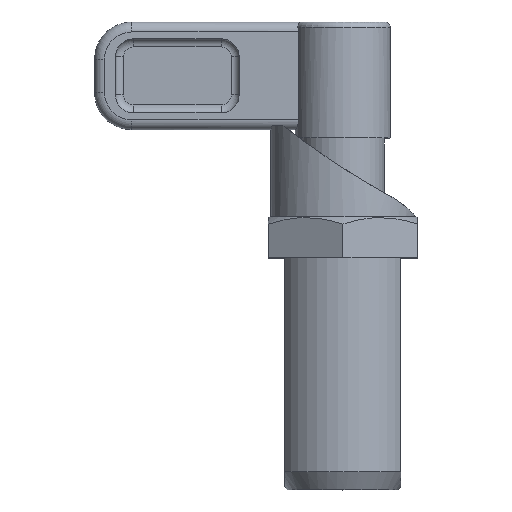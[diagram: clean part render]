
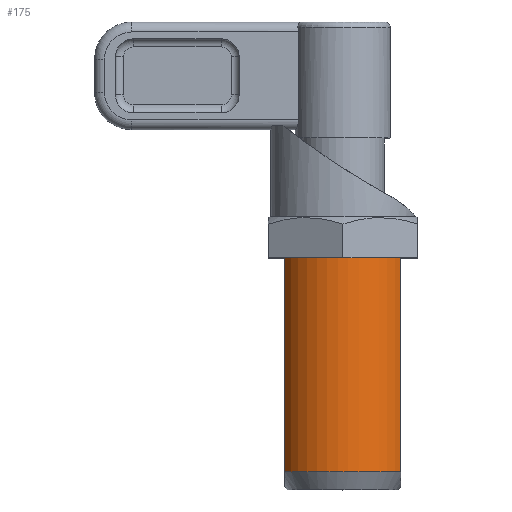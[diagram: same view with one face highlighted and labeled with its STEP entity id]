
A CAD part, top view. The second image highlights one B-rep face of the part: STEP entity #175.
In plain terms, the highlighted cylindrical face has radius 8 mm (diameter 16 mm), a partial arc.
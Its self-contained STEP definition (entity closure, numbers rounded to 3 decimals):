
#175 = ADVANCED_FACE( '', ( #258 ), #259, .T. );
#258 = FACE_OUTER_BOUND( '', #429, .T. );
#259 = CYLINDRICAL_SURFACE( '', #430, 8. );
#429 = EDGE_LOOP( '', ( #637, #638, #639, #640 ) );
#430 = AXIS2_PLACEMENT_3D( '', #641, #642, #643 );
#637 = ORIENTED_EDGE( '', *, *, #1145, .F. );
#638 = ORIENTED_EDGE( '', *, *, #1146, .T. );
#639 = ORIENTED_EDGE( '', *, *, #1147, .F. );
#640 = ORIENTED_EDGE( '', *, *, #1148, .T. );
#641 = CARTESIAN_POINT( '', ( 0., 0., 0. ) );
#642 = DIRECTION( '', ( 0., 1., 0. ) );
#643 = DIRECTION( '', ( 0., 0., -1. ) );
#1145 = EDGE_CURVE( '', #1317, #1318, #1319, .T. );
#1146 = EDGE_CURVE( '', #1317, #1320, #1321, .F. );
#1147 = EDGE_CURVE( '', #1322, #1320, #1323, .T. );
#1148 = EDGE_CURVE( '', #1322, #1318, #1324, .T. );
#1317 = VERTEX_POINT( '', #1818 );
#1318 = VERTEX_POINT( '', #1819 );
#1319 = CIRCLE( '', #1820, 8. );
#1320 = VERTEX_POINT( '', #1821 );
#1321 = LINE( '', #1822, #1823 );
#1322 = VERTEX_POINT( '', #1824 );
#1323 = CIRCLE( '', #1825, 8. );
#1324 = LINE( '', #1826, #1827 );
#1818 = CARTESIAN_POINT( '', ( 7., 2.17, 3.873 ) );
#1819 = CARTESIAN_POINT( '', ( -7., 2.17, 3.873 ) );
#1820 = AXIS2_PLACEMENT_3D( '', #2257, #2258, #2259 );
#1821 = CARTESIAN_POINT( '', ( 7., 28., 3.873 ) );
#1822 = CARTESIAN_POINT( '', ( 7., 0., 3.873 ) );
#1823 = VECTOR( '', #2260, 1000. );
#1824 = CARTESIAN_POINT( '', ( -7., 28., 3.873 ) );
#1825 = AXIS2_PLACEMENT_3D( '', #2261, #2262, #2263 );
#1826 = CARTESIAN_POINT( '', ( -7., 0., 3.873 ) );
#1827 = VECTOR( '', #2264, 1000. );
#2257 = CARTESIAN_POINT( '', ( 0., 2.17, 0. ) );
#2258 = DIRECTION( '', ( 0., -1., 0. ) );
#2259 = DIRECTION( '', ( 0., 0., -1. ) );
#2260 = DIRECTION( '', ( 0., -1., 0. ) );
#2261 = CARTESIAN_POINT( '', ( 0., 28., 0. ) );
#2262 = DIRECTION( '', ( 0., 1., 0. ) );
#2263 = DIRECTION( '', ( 0., 0., 1. ) );
#2264 = DIRECTION( '', ( 0., -1., 0. ) );
